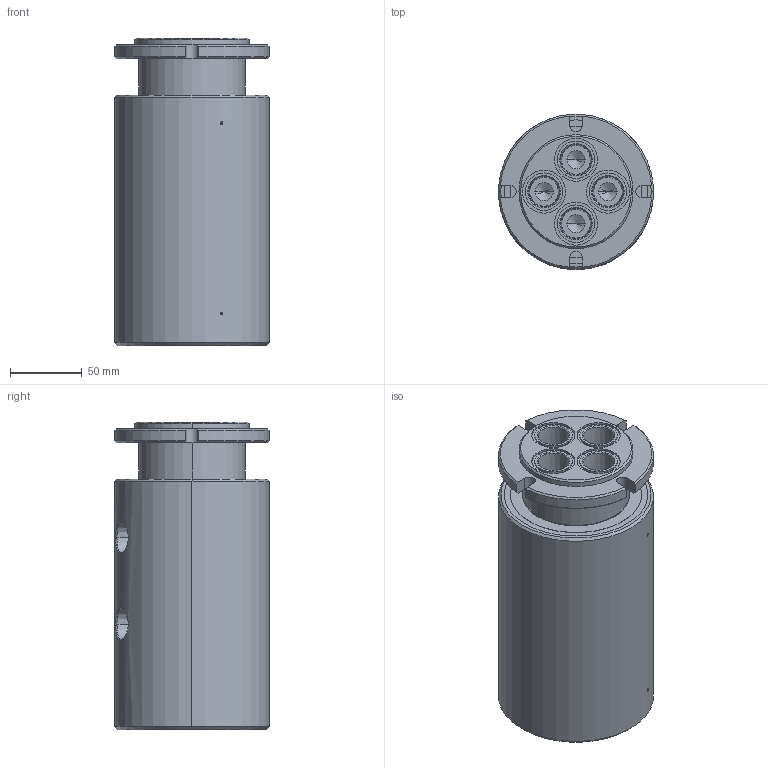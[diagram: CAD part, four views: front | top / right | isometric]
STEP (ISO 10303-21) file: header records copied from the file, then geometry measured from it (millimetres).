
FILE_DESCRIPTION (( 'STEP AP214' ), '1' );
FILE_NAME ('GP(M)-440.STEP', '2013-02-06T13:31:19', ( '' ), ( '' ), 'SwSTEP 2.0', 'SolidWorks 2011', '' );
FILE_SCHEMA (( 'AUTOMOTIVE_DESIGN' ));
Length unit declared in the file: inch
Products named in the file (1): GP(M)-440
Bounding box: 107.95 x 107.95 x 214.22 mm (x, y, z)
Volume: 1722712 mm3; surface area: 115103 mm2
Topology: 1 solids, 1 shells, 204 faces, 488 edges, 300 vertices
Faces by surface type: cylinder 85, cone 66, plane 43, bspline 8, torus 2
Entity records: 7358 total; most frequent: CARTESIAN_POINT 2331, DIRECTION 1010, ORIENTED_EDGE 920, EDGE_CURVE 460, AXIS2_PLACEMENT_3D 415, VERTEX_POINT 300, EDGE_LOOP 246, CIRCLE 218
